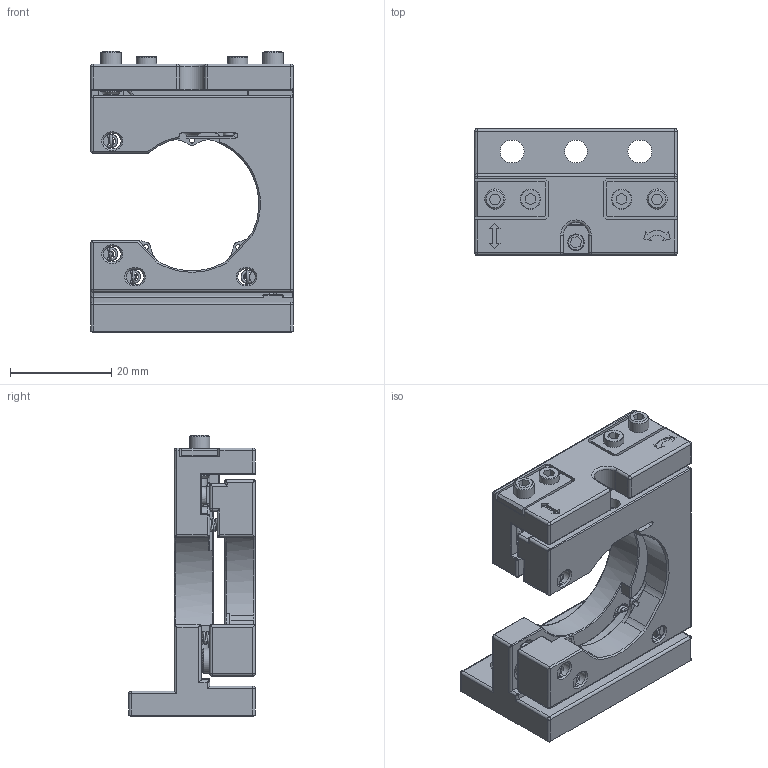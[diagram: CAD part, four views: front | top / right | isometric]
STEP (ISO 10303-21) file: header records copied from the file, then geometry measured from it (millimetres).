
FILE_DESCRIPTION(/* description */ (''),/* implementation_level */ '2;1');
FILE_NAME(/* name */ 'VMHV-25.4L-F_STP.stp',/* time_stamp */ '2025-10-16T15:45:06+09:00',/* author */ (''),/* organization */ (''),/* preprocessor_version */ 'ST-DEVELOPER v19.2',/* originating_system */ 'Autodesk Inventor 2023',/* authorisation */ '');
FILE_SCHEMA (('AUTOMOTIVE_DESIGN { 1 0 10303 214 3 1 1 }'));
Length unit declared in the file: millimetre
Products named in the file (6): VMHV25.4L-M02-25001-TS01; MHV25.4L-M02-21001-S01; MHV25.4L-M02-21001-S02; MHV25.4L-M02-21001-S03; MHV25.4L-M03-21005　A; φ4
Assembly tree (6 placements, depth 2):
  VMHV25.4L-M02-25001-TS01
    MHV25.4L-M02-21001-S01
    MHV25.4L-M02-21001-S02
    MHV25.4L-M02-21001-S03
    MHV25.4L-M03-21005　A
    φ4  x2
Bounding box: 40 x 25 x 55.5 mm (x, y, z)
Volume: 19482.2 mm3; surface area: 14251.6 mm2
Topology: 6 solids, 10 shells, 887 faces, 2237 edges, 1360 vertices
Faces by surface type: plane 447, cylinder 240, cone 88, bspline 48, sphere 39, torus 25
Full cylindrical faces by diameter (mm): 0.4 x8, 1 x3, 1.5 x2, 1.6 x1, 2 x2, 3 x1, 3.3 x1, 3.4 x2, 3.5 x2, 3.8 x4, 4 x7, 4.1 x1, 4.2 x2, 4.5 x1, 5 x1, 5.4 x2, 5.5 x3, 6.8 x2, 7 x2
Entity records: 32016 total; most frequent: CARTESIAN_POINT 10527, DIRECTION 4503, ORIENTED_EDGE 4384, EDGE_CURVE 2192, AXIS2_PLACEMENT_3D 1560, LINE 1383, VECTOR 1383, VERTEX_POINT 1358
